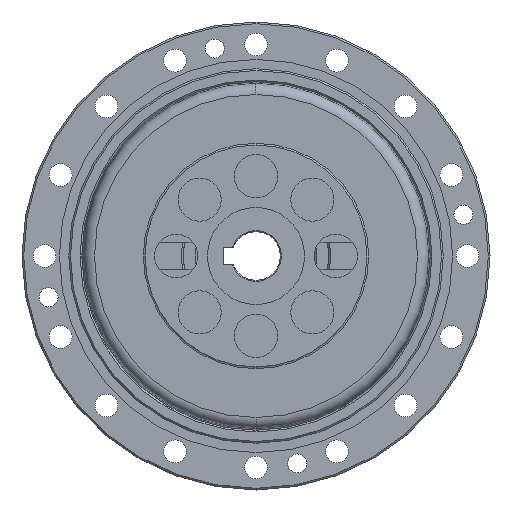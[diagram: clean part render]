
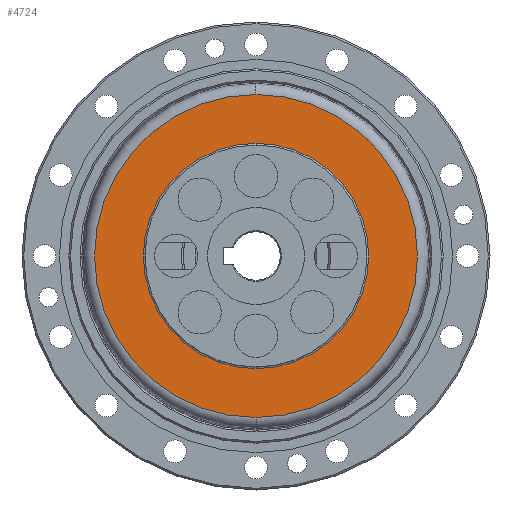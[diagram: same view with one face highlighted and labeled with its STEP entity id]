
A CAD part, left-side view. The second image highlights one B-rep face of the part: STEP entity #4724.
In plain terms, the highlighted planar face has unit normal (-1, 0, 0).
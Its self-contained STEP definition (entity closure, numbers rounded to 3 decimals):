
#74 = CARTESIAN_POINT ( 'NONE',  ( 26.621, 0., 0. ) ) ;
#387 = DIRECTION ( 'NONE',  ( 0., 0., -1. ) ) ;
#556 = VERTEX_POINT ( 'NONE', #5441 ) ;
#730 = AXIS2_PLACEMENT_3D ( 'NONE', #12288, #5035, #13489 ) ;
#1040 = EDGE_LOOP ( 'NONE', ( #11205, #10233 ) ) ;
#1273 = DIRECTION ( 'NONE',  ( 0., 0., -1. ) ) ;
#1300 = AXIS2_PLACEMENT_3D ( 'NONE', #3764, #12235, #4983 ) ;
#1357 = EDGE_CURVE ( 'NONE', #11769, #4627, #4126, .T. ) ;
#3442 = CARTESIAN_POINT ( 'NONE',  ( 26.621, 32.5, 0. ) ) ;
#3764 = CARTESIAN_POINT ( 'NONE',  ( 26.621, 0., 0. ) ) ;
#3934 = ORIENTED_EDGE ( 'NONE', *, *, #8597, .T. ) ;
#4126 = CIRCLE ( 'NONE', #11288, 46.58 ) ;
#4571 = ORIENTED_EDGE ( 'NONE', *, *, #11480, .T. ) ;
#4627 = VERTEX_POINT ( 'NONE', #9319 ) ;
#4724 = ADVANCED_FACE ( 'NONE', ( #5931, #15563 ), #13162, .T. ) ;
#4983 = DIRECTION ( 'NONE',  ( 0., 0., -1. ) ) ;
#5035 = DIRECTION ( 'NONE',  ( 1., 0., 0. ) ) ;
#5441 = CARTESIAN_POINT ( 'NONE',  ( 26.621, 0., -32.5 ) ) ;
#5931 = FACE_BOUND ( 'NONE', #15335, .T. ) ;
#6957 = CARTESIAN_POINT ( 'NONE',  ( 26.621, 0., -46.58 ) ) ;
#7143 = DIRECTION ( 'NONE',  ( 0., 0., 1. ) ) ;
#7255 = CIRCLE ( 'NONE', #9870, 32.5 ) ;
#7625 = DIRECTION ( 'NONE',  ( 1., 0., 0. ) ) ;
#8528 = DIRECTION ( 'NONE',  ( 1., 0., 0. ) ) ;
#8597 = EDGE_CURVE ( 'NONE', #10825, #556, #11320, .T. ) ;
#9319 = CARTESIAN_POINT ( 'NONE',  ( 26.621, 0., 46.58 ) ) ;
#9870 = AXIS2_PLACEMENT_3D ( 'NONE', #14878, #7625, #387 ) ;
#9975 = CIRCLE ( 'NONE', #730, 46.58 ) ;
#10233 = ORIENTED_EDGE ( 'NONE', *, *, #14969, .F. ) ;
#10825 = VERTEX_POINT ( 'NONE', #11898 ) ;
#11205 = ORIENTED_EDGE ( 'NONE', *, *, #1357, .F. ) ;
#11288 = AXIS2_PLACEMENT_3D ( 'NONE', #74, #8528, #1273 ) ;
#11320 = CIRCLE ( 'NONE', #1300, 32.5 ) ;
#11480 = EDGE_CURVE ( 'NONE', #556, #10825, #7255, .T. ) ;
#11769 = VERTEX_POINT ( 'NONE', #6957 ) ;
#11898 = CARTESIAN_POINT ( 'NONE',  ( 26.621, 0., 32.5 ) ) ;
#12235 = DIRECTION ( 'NONE',  ( 1., 0., 0. ) ) ;
#12288 = CARTESIAN_POINT ( 'NONE',  ( 26.621, 0., 0. ) ) ;
#13162 = PLANE ( 'NONE',  #14349 ) ;
#13489 = DIRECTION ( 'NONE',  ( 0., 0., -1. ) ) ;
#14349 = AXIS2_PLACEMENT_3D ( 'NONE', #3442, #14369, #7143 ) ;
#14369 = DIRECTION ( 'NONE',  ( -1., 0., 0. ) ) ;
#14878 = CARTESIAN_POINT ( 'NONE',  ( 26.621, 0., 0. ) ) ;
#14969 = EDGE_CURVE ( 'NONE', #4627, #11769, #9975, .T. ) ;
#15335 = EDGE_LOOP ( 'NONE', ( #4571, #3934 ) ) ;
#15563 = FACE_OUTER_BOUND ( 'NONE', #1040, .T. ) ;
